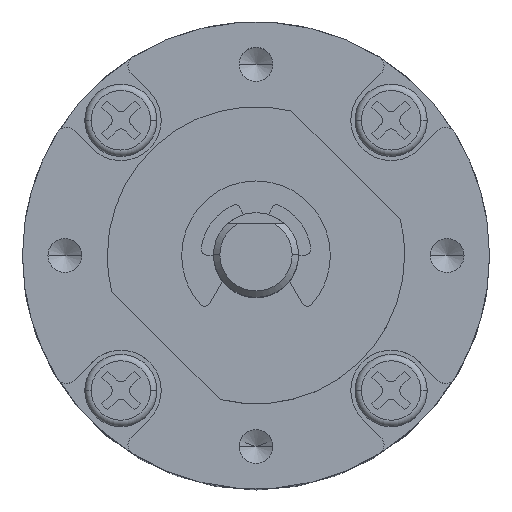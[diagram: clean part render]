
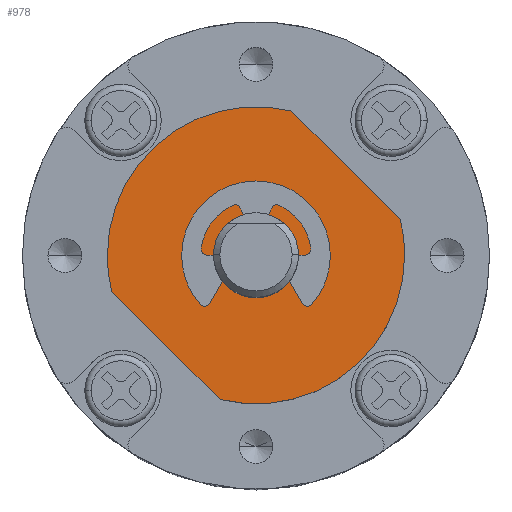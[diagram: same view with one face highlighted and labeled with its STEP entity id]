
A CAD part, top view. The second image highlights one B-rep face of the part: STEP entity #978.
In plain terms, the highlighted planar face has unit normal (0, 0, 1).
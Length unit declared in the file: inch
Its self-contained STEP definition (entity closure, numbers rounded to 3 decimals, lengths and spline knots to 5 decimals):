
#978=ADVANCED_FACE('NONE',(#2044,#2045),#2046,.F.);
#2044=FACE_OUTER_BOUND('',#3191,.T.);
#2045=FACE_BOUND('',#3192,.T.);
#2046=PLANE('',#3193);
#3191=EDGE_LOOP('',(#6012,#6013,#6014,#6015,#6016,#6017));
#3192=EDGE_LOOP('',(#6018,#6019));
#3193=AXIS2_PLACEMENT_3D('',#6020,#6021,#6022);
#6012=ORIENTED_EDGE('',*,*,#7606,.F.);
#6013=ORIENTED_EDGE('',*,*,#6746,.T.);
#6014=ORIENTED_EDGE('',*,*,#7025,.F.);
#6015=ORIENTED_EDGE('',*,*,#7010,.F.);
#6016=ORIENTED_EDGE('',*,*,#7073,.T.);
#6017=ORIENTED_EDGE('',*,*,#7200,.F.);
#6018=ORIENTED_EDGE('',*,*,#7687,.T.);
#6019=ORIENTED_EDGE('',*,*,#7827,.T.);
#6020=CARTESIAN_POINT('',(-0.16451,-0.10616,0.37402));
#6021=DIRECTION('',(0.0,0.0,-1.0));
#6022=DIRECTION('',(0.0,-1.0,0.0));
#6746=EDGE_CURVE('NONE',#8046,#8051,#8053,.T.);
#7010=EDGE_CURVE('NONE',#8521,#8522,#8523,.T.);
#7025=EDGE_CURVE('NONE',#8522,#8051,#8546,.T.);
#7073=EDGE_CURVE('NONE',#8521,#8623,#8625,.T.);
#7200=EDGE_CURVE('NONE',#8828,#8623,#8830,.T.);
#7606=EDGE_CURVE('NONE',#8046,#8828,#9441,.T.);
#7687=EDGE_CURVE('NONE',#9541,#9539,#9542,.T.);
#7827=EDGE_CURVE('NONE',#9539,#9541,#9713,.T.);
#8046=VERTEX_POINT('NONE',#9954);
#8051=VERTEX_POINT('NONE',#9961);
#8053=LINE('',#9964,#9965);
#8521=VERTEX_POINT('NONE',#10555);
#8522=VERTEX_POINT('NONE',#10556);
#8523=CIRCLE('',#10557,0.27559);
#8546=CIRCLE('',#10588,0.27559);
#8623=VERTEX_POINT('NONE',#10701);
#8625=LINE('',#10704,#10705);
#8828=VERTEX_POINT('',#10966);
#8830=CIRCLE('',#10969,0.27559);
#9441=CIRCLE('',#11778,0.27559);
#9539=VERTEX_POINT('NONE',#11896);
#9541=VERTEX_POINT('NONE',#11899);
#9542=CIRCLE('',#11900,0.07874);
#9713=CIRCLE('',#12119,0.07874);
#9954=CARTESIAN_POINT('',(0.10289,0.03924,0.37402));
#9961=CARTESIAN_POINT('',(-0.09785,0.23999,0.37402));
#9964=CARTESIAN_POINT('',(0.04189,0.10024,0.37402));
#9965=VECTOR('',#12392,39.37008);
#10555=CARTESIAN_POINT('',(-0.43192,-0.09408,0.37402));
#10556=CARTESIAN_POINT('',(-0.4401,-0.02742,0.37402));
#10557=AXIS2_PLACEMENT_3D('',#12824,#12825,#12826);
#10588=AXIS2_PLACEMENT_3D('',#12847,#12848,#12849);
#10701=CARTESIAN_POINT('',(-0.23117,-0.29483,0.37402));
#10704=CARTESIAN_POINT('',(-0.29218,-0.23382,0.37402));
#10705=VECTOR('',#12910,39.37008);
#10966=CARTESIAN_POINT('',(0.11108,-0.02742,0.37402));
#10969=AXIS2_PLACEMENT_3D('',#13084,#13085,#13086);
#11778=AXIS2_PLACEMENT_3D('',#13654,#13655,#13656);
#11896=CARTESIAN_POINT('',(-0.08577,-0.02742,0.37402));
#11899=CARTESIAN_POINT('',(-0.24325,-0.02742,0.37402));
#11900=AXIS2_PLACEMENT_3D('',#13804,#13805,#13806);
#12119=AXIS2_PLACEMENT_3D('',#13981,#13982,#13983);
#12392=DIRECTION('',(-0.707,0.707,0.0));
#12824=CARTESIAN_POINT('',(-0.16451,-0.02742,0.37402));
#12825=DIRECTION('',(0.0,0.0,-1.0));
#12826=DIRECTION('',(-1.0,0.0,0.0));
#12847=CARTESIAN_POINT('',(-0.16451,-0.02742,0.37402));
#12848=DIRECTION('',(0.0,0.0,-1.0));
#12849=DIRECTION('',(-1.0,0.0,0.0));
#12910=DIRECTION('',(0.707,-0.707,0.0));
#13084=CARTESIAN_POINT('',(-0.16451,-0.02742,0.37402));
#13085=DIRECTION('',(0.0,0.0,-1.0));
#13086=DIRECTION('',(-1.0,0.0,0.0));
#13654=CARTESIAN_POINT('',(-0.16451,-0.02742,0.37402));
#13655=DIRECTION('',(0.0,0.0,-1.0));
#13656=DIRECTION('',(-1.0,0.0,0.0));
#13804=CARTESIAN_POINT('',(-0.16451,-0.02742,0.37402));
#13805=DIRECTION('',(0.0,0.0,-1.0));
#13806=DIRECTION('',(-1.0,0.0,0.0));
#13981=CARTESIAN_POINT('',(-0.16451,-0.02742,0.37402));
#13982=DIRECTION('',(0.0,0.0,-1.0));
#13983=DIRECTION('',(-1.0,0.0,0.0));
